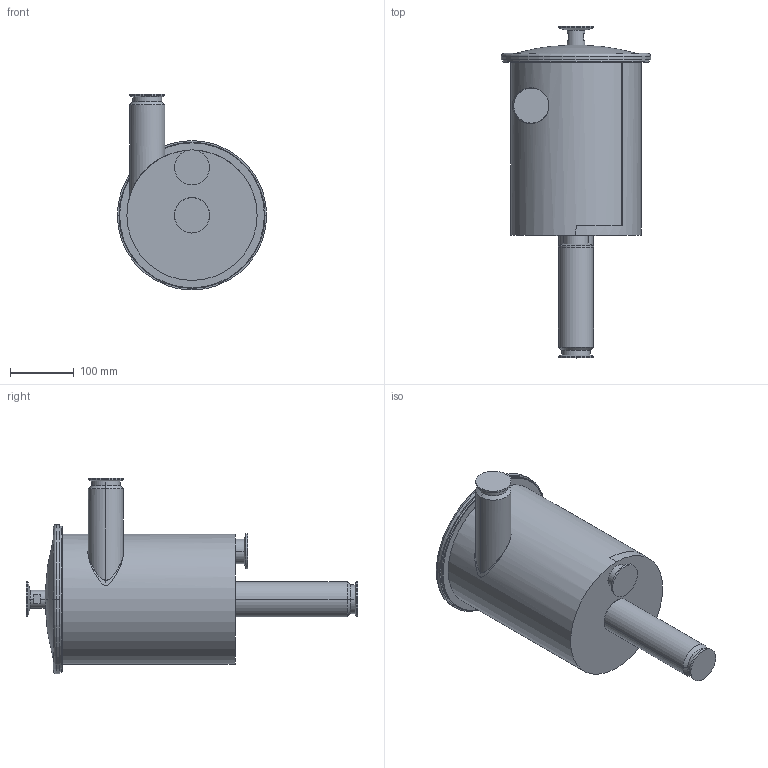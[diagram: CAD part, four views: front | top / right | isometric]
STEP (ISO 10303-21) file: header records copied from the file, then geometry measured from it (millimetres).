
FILE_DESCRIPTION((''),'2;1');
FILE_NAME('18616_STAUBABSCHEIDER_SW0001','2014-08-12T',('L0108624'),('Copyright by Leybold GmbH'),'PRO/ENGINEER BY PARAMETRIC TECHNOLOGY CORPORATION, 2013320','PRO/ENGINEER BY PARAMETRIC TECHNOLOGY CORPORATION, 2013320','');
FILE_SCHEMA(('AUTOMOTIVE_DESIGN { 1 0 10303 214 1 1 1 1 }'));
Length unit declared in the file: millimetre
Products named in the file (1): 18616_STAUBABSCHEIDER_SW0001
Bounding box: 234 x 520 x 307 mm (x, y, z)
Volume: 1770732.2 mm3; surface area: 740778.1 mm2
Topology: 2 solids, 2 shells, 141 faces, 310 edges, 193 vertices
Faces by surface type: cylinder 71, plane 36, cone 22, torus 6, sphere 4, bspline 2
Entity records: 5412 total; most frequent: CARTESIAN_POINT 2096, DIRECTION 751, ORIENTED_EDGE 614, AXIS2_PLACEMENT_3D 319, EDGE_CURVE 307, VERTEX_POINT 193, CIRCLE 180, EDGE_LOOP 164
